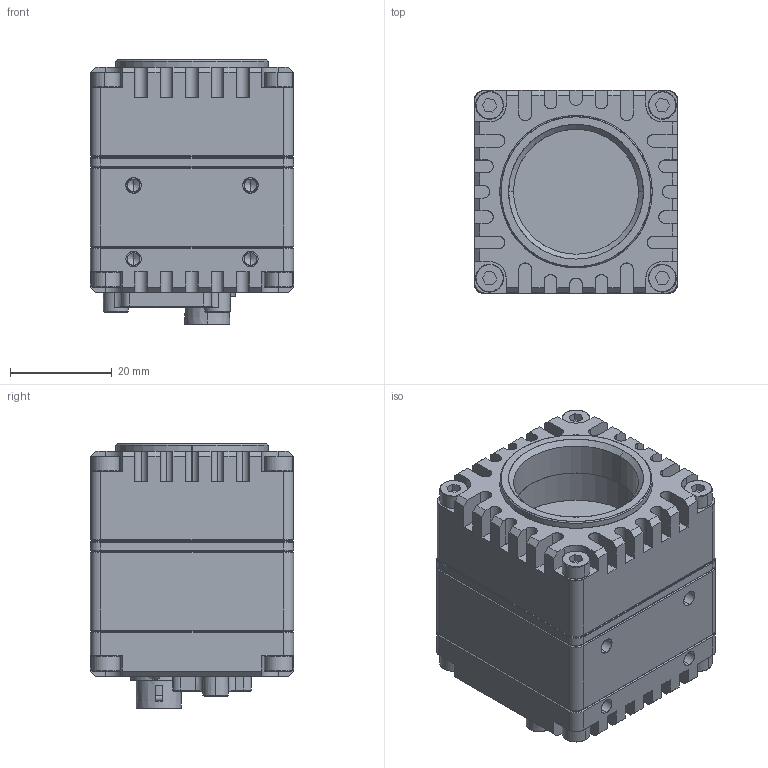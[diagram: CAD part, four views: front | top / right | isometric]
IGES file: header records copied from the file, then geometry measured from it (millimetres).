
Start section: SolidWorks IGES file using analytic representation for surfaces
Global section: file name: P:\engineering\MECH_CAD\mechanical\Documentation\FG SWIR\Extracts\FG-PGE-13S3S-U-C-R1.IGS; native system: SolidWorks 2020; preprocessor: SolidWorks 2020; author: TPethick; date: 240822.161202; units: millimetre
Bounding box: 40 x 40 x 52 mm (x, y, z)
Surface area: 16180.6 mm2 (no closed solid volume)
Topology: 0 solids, 0 shells, 817 faces, 9167 edges, 9145 vertices
Faces by surface type: bspline 437, revolution 380
